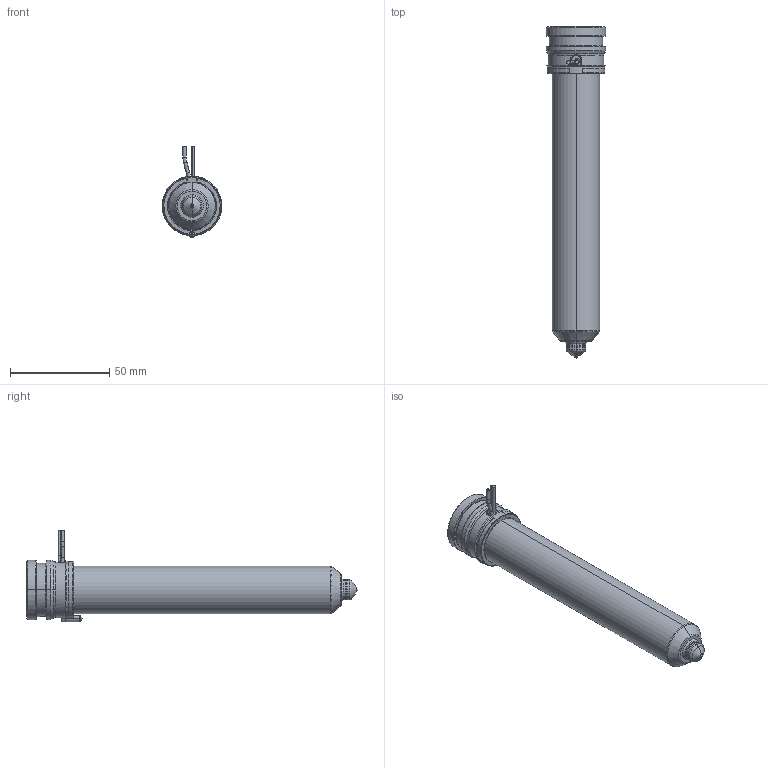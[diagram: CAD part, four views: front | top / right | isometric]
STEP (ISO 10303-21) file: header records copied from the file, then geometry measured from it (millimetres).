
FILE_DESCRIPTION((''),'2;1');
FILE_NAME('MPN-10-29-TX10-146-A','2026-02-11T11:17:36',('UVRWS'),('Thermoplay S.p.A.'),'CREO PARAMETRIC BY PTC INC, 2023494','CREO PARAMETRIC BY PTC INC, 2023494','');
FILE_SCHEMA(('CONFIG_CONTROL_DESIGN','SHAPE_APPEARANCE_LAYERS_GROUPS'));
Length unit declared in the file: millimetre
Products named in the file (1): MPN-10-29-TX10-146-A
Bounding box: 30 x 167.5 x 46 mm (x, y, z)
Volume: 51987.4 mm3; surface area: 52375.1 mm2
Topology: 2 solids, 3 shells, 551 faces, 1455 edges, 899 vertices
Faces by surface type: cylinder 180, plane 143, bspline 79, torus 68, cone 66, sphere 11, extrusion 4
Entity records: 31347 total; most frequent: CARTESIAN_POINT 14991, ORIENTED_EDGE 2894, DIRECTION 2641, EDGE_CURVE 1447, AXIS2_PLACEMENT_3D 1045, VERTEX_POINT 899, EDGE_LOOP 580, CIRCLE 576
